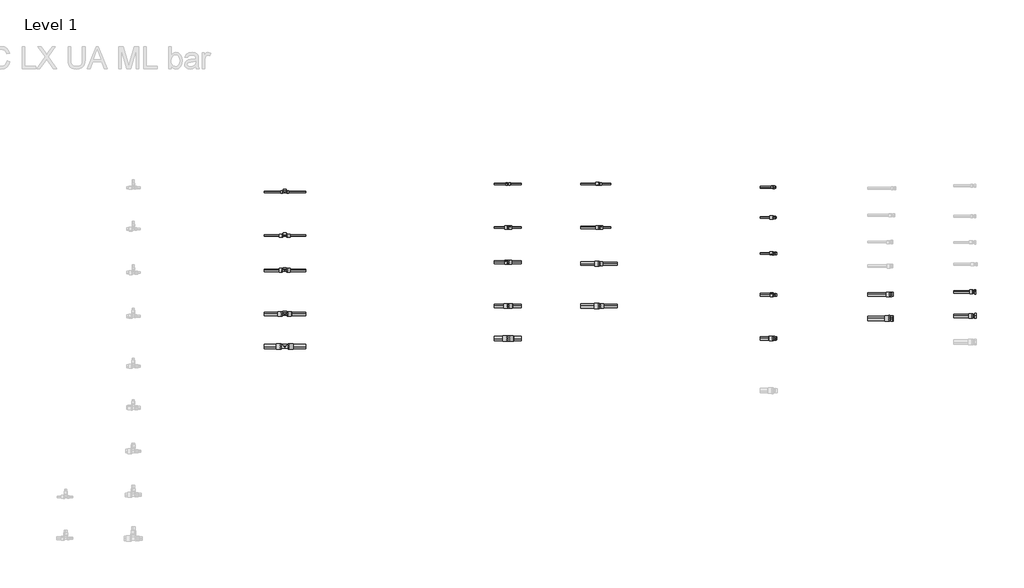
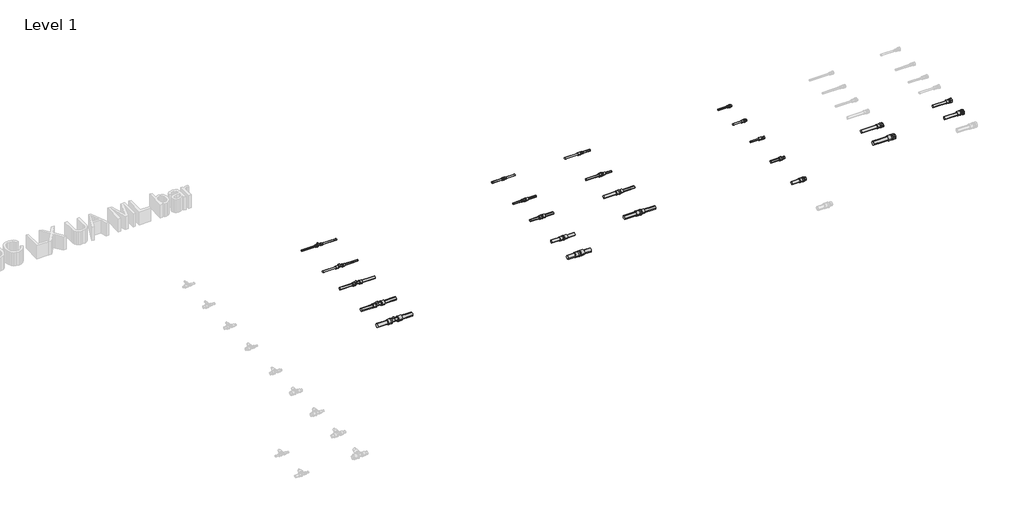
# One storey, part 23 of 78: 37 pipe segments, 23 pipe fittings.
"""IFC4 building model written with IfcOpenShell, lengths in millimetres."""

from ifc_helpers import new_model, si_unit, point, frame, frame_2d, origin, place, context, project, spatial, circle_curve, trimmed, segment, composite_curve, outline, extrude, transform, mapped, element, save
from components import pipe_fitting_bf755f27, pipe_fitting_e93012df, pipe_fitting_027be69e, pipe_fitting_14a26f43, pipe_fitting_91740978, pipe_fitting_d92d4423, pipe_fitting_47d0521d, pipe_fitting_29c4d4eb, pipe_fitting_00caae07, pipe_fitting_1d22680d, pipe_fitting_5e3c5755, pipe_fitting_f5731c1c, pipe_fitting_607ccf76, pipe_fitting_0b32e4b0, pipe_fitting_0562571e, pipe_fitting_d14a7251, pipe_fitting_38e91122, pipe_fitting_ee510fd7, pipe_fitting_a999c26e, pipe_fitting_b01d00d0, pipe_fitting_5bbd4ca1, pipe_fitting_1e296f3b, pipe_fitting_52b87474

model = new_model("IFC4")

# Units and contexts
model_context = context("Model", 3, world=origin())
ifc_project = project(units=[si_unit("LENGTHUNIT", "METRE", prefix="MILLI")], contexts=[model_context])

# Site, building, storey
site = spatial("IfcSite", under=ifc_project)
building = spatial("IfcBuilding", under=site)
storey = spatial("IfcBuildingStorey", under=building, Name="Level 1", Elevation=0.0)

# Pipe fittings
placement = place(None, origin())
pipe_fitting_shape = pipe_fitting_bf755f27(model_context)
element("IfcPipeFitting", 1, ObjectType="FASTLOC_Adapter with union nut LX : FSL A union nut UA", at=placement, inside=storey, context=model_context, shape_type="MappedRepresentation", body=[
    mapped(pipe_fitting_shape, transform((9358.4862587, -11417.8541738, 0.0), x_axis=(1.0, 0.0, 0.0), y_axis=(0.0, 1.0, 0.0), z_axis=(0.0, 0.0, 1.0))),
])
pipe_fitting_2_shape = pipe_fitting_e93012df(model_context)
element("IfcPipeFitting", 2, ObjectType="FASTLOC_Adapter_LX, with external thread : FSL A C external UA", at=placement, inside=storey, context=model_context, shape_type="MappedRepresentation", body=[
    mapped(pipe_fitting_2_shape, transform((7526.3785179, -10235.7057457, 0.0), x_axis=(1.0, 0.0, 0.0), y_axis=(0.0, 1.0, 0.0), z_axis=(0.0, 0.0, 1.0))),
])
pipe_fitting_3_shape = pipe_fitting_027be69e(model_context)
element("IfcPipeFitting", 3, ObjectType="FASTLOC_Coupling equal LX : FSL C LX UA", at=placement, inside=storey, context=model_context, shape_type="MappedRepresentation", body=[
    mapped(pipe_fitting_3_shape, transform((5088.3790161, -10205.8821283, 0.0), x_axis=(1.0, 0.0, 0.0), y_axis=(0.0, 1.0, 0.0), z_axis=(0.0, 0.0, 1.0))),
])
pipe_fitting_4_shape = pipe_fitting_14a26f43(model_context)
element("IfcPipeFitting", 4, ObjectType="FASTLOC_Coupling reduced LX : FSL C LX UA", at=placement, inside=storey, context=model_context, shape_type="MappedRepresentation", body=[
    mapped(pipe_fitting_4_shape, transform((5926.6928556, -11325.8821283, 0.0), x_axis=(1.0, 0.0, 0.0), y_axis=(0.0, 1.0, 0.0), z_axis=(0.0, 0.0, 1.0))),
])
pipe_fitting_5_shape = pipe_fitting_91740978(model_context)
element("IfcPipeFitting", 5, ObjectType="FASTLOC_T-piece internal thread LX : FSL T thread LX UA", at=placement, inside=storey, context=model_context, shape_type="MappedRepresentation", body=[
    mapped(pipe_fitting_5_shape, transform((3036.609585, -11399.8272875, 0.0), x_axis=(1.0, 0.0, 0.0), y_axis=(0.0, 1.0, 0.0), z_axis=(0.0, 0.0, 1.0))),
])
pipe_fitting_6_shape = pipe_fitting_d92d4423(model_context)
element("IfcPipeFitting", 6, ObjectType="FASTLOC_T-piece internal thread LX : FSL T thread LX UA", at=placement, inside=storey, context=model_context, shape_type="MappedRepresentation", body=[
    mapped(pipe_fitting_6_shape, transform((3036.609585, -10279.8272875, 0.0), x_axis=(1.0, 0.0, 0.0), y_axis=(0.0, 1.0, 0.0), z_axis=(0.0, 0.0, 1.0))),
])
pipe_fitting_7_shape = pipe_fitting_47d0521d(model_context)
element("IfcPipeFitting", 7, ObjectType="FASTLOC_T-piece internal thread LX : FSL T thread LX UA", at=placement, inside=storey, context=model_context, shape_type="MappedRepresentation", body=[
    mapped(pipe_fitting_7_shape, transform((3036.609585, -10679.8272875, 0.0), x_axis=(1.0, 0.0, 0.0), y_axis=(0.0, 1.0, 0.0), z_axis=(0.0, 0.0, 1.0))),
])
pipe_fitting_8_shape = pipe_fitting_29c4d4eb(model_context)
element("IfcPipeFitting", 8, ObjectType="FASTLOC_T-piece internal thread LX : FSL T thread LX UA", at=placement, inside=storey, context=model_context, shape_type="MappedRepresentation", body=[
    mapped(pipe_fitting_8_shape, transform((3036.609585, -10999.8272875, 0.0), x_axis=(1.0, 0.0, 0.0), y_axis=(0.0, 1.0, 0.0), z_axis=(0.0, 0.0, 1.0))),
])
pipe_fitting_9_shape = pipe_fitting_00caae07(model_context)
element("IfcPipeFitting", 9, ObjectType="FASTLOC_T-piece internal thread LX : FSL T thread LX UA", at=placement, inside=storey, context=model_context, shape_type="MappedRepresentation", body=[
    mapped(pipe_fitting_9_shape, transform((3036.609585, -11699.8272875, 0.0), x_axis=(1.0, 0.0, 0.0), y_axis=(0.0, 1.0, 0.0), z_axis=(0.0, 0.0, 1.0))),
])
pipe_fitting_10_shape = pipe_fitting_1d22680d(model_context)
element("IfcPipeFitting", 10, ObjectType="FASTLOC_Coupling equal LX : FSL C LX UA", at=placement, inside=storey, context=model_context, shape_type="MappedRepresentation", body=[
    mapped(pipe_fitting_10_shape, transform((5088.3790161, -10605.8821283, 0.0), x_axis=(1.0, 0.0, 0.0), y_axis=(0.0, 1.0, 0.0), z_axis=(0.0, 0.0, 1.0))),
])
pipe_fitting_11_shape = pipe_fitting_5e3c5755(model_context)
element("IfcPipeFitting", 11, ObjectType="FASTLOC_Coupling equal LX : FSL C LX UA", at=placement, inside=storey, context=model_context, shape_type="MappedRepresentation", body=[
    mapped(pipe_fitting_11_shape, transform((5088.3790161, -10925.8821283, 0.0), x_axis=(1.0, 0.0, 0.0), y_axis=(0.0, 1.0, 0.0), z_axis=(0.0, 0.0, 1.0))),
])
pipe_fitting_12_shape = pipe_fitting_f5731c1c(model_context)
element("IfcPipeFitting", 12, ObjectType="FASTLOC_Coupling equal LX : FSL C LX UA", at=placement, inside=storey, context=model_context, shape_type="MappedRepresentation", body=[
    mapped(pipe_fitting_12_shape, transform((5088.3790161, -11325.8821283, 0.0), x_axis=(1.0, 0.0, 0.0), y_axis=(0.0, 1.0, 0.0), z_axis=(0.0, 0.0, 1.0))),
])
pipe_fitting_13_shape = pipe_fitting_607ccf76(model_context)
element("IfcPipeFitting", 13, ObjectType="FASTLOC_Coupling equal LX : FSL C LX UA", at=placement, inside=storey, context=model_context, shape_type="MappedRepresentation", body=[
    mapped(pipe_fitting_13_shape, transform((5088.3790161, -11625.8821283, 0.0), x_axis=(1.0, 0.0, 0.0), y_axis=(0.0, 1.0, 0.0), z_axis=(0.0, 0.0, 1.0))),
])
pipe_fitting_14_shape = pipe_fitting_0b32e4b0(model_context)
element("IfcPipeFitting", 14, ObjectType="FASTLOC_Coupling reduced LX : FSL C LX UA", at=placement, inside=storey, context=model_context, shape_type="MappedRepresentation", body=[
    mapped(pipe_fitting_14_shape, transform((5926.6928556, -10205.8821283, 0.0), x_axis=(1.0, 0.0, 0.0), y_axis=(0.0, 1.0, 0.0), z_axis=(0.0, 0.0, 1.0))),
])
pipe_fitting_15_shape = pipe_fitting_0562571e(model_context)
element("IfcPipeFitting", 15, ObjectType="FASTLOC_Coupling reduced LX : FSL C LX UA", at=placement, inside=storey, context=model_context, shape_type="MappedRepresentation", body=[
    mapped(pipe_fitting_15_shape, transform((5926.6928556, -10605.8821283, 0.0), x_axis=(1.0, 0.0, 0.0), y_axis=(0.0, 1.0, 0.0), z_axis=(0.0, 0.0, 1.0))),
])
pipe_fitting_16_shape = pipe_fitting_d14a7251(model_context)
element("IfcPipeFitting", 16, ObjectType="FASTLOC_Coupling reduced LX : FSL C LX UA", at=placement, inside=storey, context=model_context, shape_type="MappedRepresentation", body=[
    mapped(pipe_fitting_16_shape, transform((5926.6928556, -10938.3821283, 0.0), x_axis=(1.0, 0.0, 0.0), y_axis=(0.0, 1.0, 0.0), z_axis=(0.0, 0.0, 1.0))),
])
pipe_fitting_17_shape = pipe_fitting_38e91122(model_context)
element("IfcPipeFitting", 17, ObjectType="FASTLOC_Adapter_LX, with external thread : FSL A C external UA", at=placement, inside=storey, context=model_context, shape_type="MappedRepresentation", body=[
    mapped(pipe_fitting_17_shape, transform((7526.8953131, -10514.2068389, 0.0), x_axis=(1.0, 0.0, 0.0), y_axis=(0.0, 1.0, 0.0), z_axis=(0.0, 0.0, 1.0))),
])
pipe_fitting_18_shape = pipe_fitting_ee510fd7(model_context)
element("IfcPipeFitting", 18, ObjectType="FASTLOC_Adapter_LX, with external thread : FSL A C external UA", at=placement, inside=storey, context=model_context, shape_type="MappedRepresentation", body=[
    mapped(pipe_fitting_18_shape, transform((7526.8953131, -10844.2068389, 0.0), x_axis=(1.0, 0.0, 0.0), y_axis=(0.0, 1.0, 0.0), z_axis=(0.0, 0.0, 1.0))),
])
pipe_fitting_19_shape = pipe_fitting_a999c26e(model_context)
element("IfcPipeFitting", 19, ObjectType="FASTLOC_Adapter_LX, with external thread : FSL A C external UA", at=placement, inside=storey, context=model_context, shape_type="MappedRepresentation", body=[
    mapped(pipe_fitting_19_shape, transform((7526.8953131, -11224.2068389, 0.0), x_axis=(1.0, 0.0, 0.0), y_axis=(0.0, 1.0, 0.0), z_axis=(0.0, 0.0, 1.0))),
])
pipe_fitting_20_shape = pipe_fitting_b01d00d0(model_context)
element("IfcPipeFitting", 20, ObjectType="FASTLOC_Adapter_LX, with external thread : FSL A C external UA", at=placement, inside=storey, context=model_context, shape_type="MappedRepresentation", body=[
    mapped(pipe_fitting_20_shape, transform((7526.8953131, -11624.2068389, 0.0), x_axis=(1.0, 0.0, 0.0), y_axis=(0.0, 1.0, 0.0), z_axis=(0.0, 0.0, 1.0))),
])
pipe_fitting_21_shape = pipe_fitting_5bbd4ca1(model_context)
element("IfcPipeFitting", 21, ObjectType="FASTLOC_Adapter with union nut LX : FSL A union nut UA", at=placement, inside=storey, context=model_context, shape_type="MappedRepresentation", body=[
    mapped(pipe_fitting_21_shape, transform((9358.4862587, -11197.8541738, 0.0), x_axis=(1.0, 0.0, 0.0), y_axis=(0.0, 1.0, 0.0), z_axis=(0.0, 0.0, 1.0))),
])
pipe_fitting_22_shape = pipe_fitting_1e296f3b(model_context)
element("IfcPipeFitting", 22, ObjectType="FASTLOC_Adapter_LX, with internal thread : FSL A internal UA", at=placement, inside=storey, context=model_context, shape_type="MappedRepresentation", body=[
    mapped(pipe_fitting_22_shape, transform((8602.7717432, -11220.2569989, 0.0), x_axis=(1.0, 0.0, 0.0), y_axis=(0.0, 1.0, 0.0), z_axis=(0.0, 0.0, 1.0))),
])
pipe_fitting_23_shape = pipe_fitting_52b87474(model_context)
element("IfcPipeFitting", 23, ObjectType="FASTLOC_Adapter_LX, with internal thread : FSL A internal UA", at=placement, inside=storey, context=model_context, shape_type="MappedRepresentation", body=[
    mapped(pipe_fitting_23_shape, transform((8602.7717432, -11440.2569989, 0.0), x_axis=(1.0, 0.0, 0.0), y_axis=(0.0, 1.0, 0.0), z_axis=(0.0, 0.0, 1.0))),
])

# Pipe segments
element("IfcPipeSegment", 24, ObjectType="FASTLOC LX ML UA bar", at=placement, inside=storey, context=model_context, shape_type="SweptSolid", body=[
    extrude(outline(composite_curve([segment(trimmed(circle_curve(frame_2d((-10279.8272875, 0.0)), 8.0), [point((-10287.8272875, 0.0))], [point((-10279.8272875, 8.0))], False, "CARTESIAN"), True, "CONTINUOUS"), segment(trimmed(circle_curve(frame_2d((-10279.8272875, 0.0)), 8.0), [point((-10279.8272875, 8.0))], [point((-10271.8272875, 0.0))], False, "CARTESIAN"), True, "CONTINUOUS"), segment(trimmed(circle_curve(frame_2d((-10279.8272875, 0.0)), 8.0), [point((-10271.8272875, 0.0))], [point((-10279.8272875, -8.0))], False, "CARTESIAN"), True, "CONTINUOUS"), segment(trimmed(circle_curve(frame_2d((-10279.8272875, 0.0)), 8.0), [point((-10279.8272875, -8.0))], [point((-10287.8272875, 0.0))], False, "CARTESIAN"), True, "CONTINUOUS")], self_intersect=False)), frame((3058.609585, 0.0, 0.0), z_axis=(1.0, 0.0, 0.0), x_axis=(0.0, 1.0, 0.0)), (0.0, 0.0, 1.0), 170.0),
])
element("IfcPipeSegment", 25, ObjectType="FASTLOC LX ML UA bar", at=placement, inside=storey, context=model_context, shape_type="SweptSolid", body=[
    extrude(outline(composite_curve([segment(trimmed(circle_curve(frame_2d((-10279.8272875, 0.0)), 8.0), [point((-10271.8272875, 0.0))], [point((-10279.8272875, -8.0))], False, "CARTESIAN"), True, "CONTINUOUS"), segment(trimmed(circle_curve(frame_2d((-10279.8272875, 0.0)), 8.0), [point((-10279.8272875, -8.0))], [point((-10287.8272875, 0.0))], False, "CARTESIAN"), True, "CONTINUOUS"), segment(trimmed(circle_curve(frame_2d((-10279.8272875, 0.0)), 8.0), [point((-10287.8272875, 0.0))], [point((-10279.8272875, 8.0))], False, "CARTESIAN"), True, "CONTINUOUS"), segment(trimmed(circle_curve(frame_2d((-10279.8272875, 0.0)), 8.0), [point((-10279.8272875, 8.0))], [point((-10271.8272875, 0.0))], False, "CARTESIAN"), True, "CONTINUOUS")], self_intersect=False)), frame((2849.609585, 0.0, 0.0), z_axis=(1.0, 0.0, 0.0), x_axis=(0.0, 1.0, 0.0)), (0.0, 0.0, 1.0), 165.0),
])
element("IfcPipeSegment", 26, ObjectType="FASTLOC LX ML UA bar", at=placement, inside=storey, context=model_context, shape_type="SweptSolid", body=[
    extrude(outline(composite_curve([segment(trimmed(circle_curve(frame_2d((-10679.8272875, 0.0)), 8.0), [point((-10687.8272875, 0.0))], [point((-10679.8272875, 8.0))], False, "CARTESIAN"), True, "CONTINUOUS"), segment(trimmed(circle_curve(frame_2d((-10679.8272875, 0.0)), 8.0), [point((-10679.8272875, 8.0))], [point((-10671.8272875, 0.0))], False, "CARTESIAN"), True, "CONTINUOUS"), segment(trimmed(circle_curve(frame_2d((-10679.8272875, 0.0)), 8.0), [point((-10671.8272875, 0.0))], [point((-10679.8272875, -8.0))], False, "CARTESIAN"), True, "CONTINUOUS"), segment(trimmed(circle_curve(frame_2d((-10679.8272875, 0.0)), 8.0), [point((-10679.8272875, -8.0))], [point((-10687.8272875, 0.0))], False, "CARTESIAN"), True, "CONTINUOUS")], self_intersect=False)), frame((3059.109585, 0.0, 0.0), z_axis=(1.0, 0.0, 0.0), x_axis=(0.0, 1.0, 0.0)), (0.0, 0.0, 1.0), 169.5),
])
element("IfcPipeSegment", 27, ObjectType="FASTLOC LX ML UA bar", at=placement, inside=storey, context=model_context, shape_type="SweptSolid", body=[
    extrude(outline(composite_curve([segment(trimmed(circle_curve(frame_2d((-10679.8272875, 0.0)), 8.0), [point((-10671.8272875, 0.0))], [point((-10679.8272875, -8.0))], False, "CARTESIAN"), True, "CONTINUOUS"), segment(trimmed(circle_curve(frame_2d((-10679.8272875, 0.0)), 8.0), [point((-10679.8272875, -8.0))], [point((-10687.8272875, 0.0))], False, "CARTESIAN"), True, "CONTINUOUS"), segment(trimmed(circle_curve(frame_2d((-10679.8272875, 0.0)), 8.0), [point((-10687.8272875, 0.0))], [point((-10679.8272875, 8.0))], False, "CARTESIAN"), True, "CONTINUOUS"), segment(trimmed(circle_curve(frame_2d((-10679.8272875, 0.0)), 8.0), [point((-10679.8272875, 8.0))], [point((-10671.8272875, 0.0))], False, "CARTESIAN"), True, "CONTINUOUS")], self_intersect=False)), frame((2849.609585, 0.0, 0.0), z_axis=(1.0, 0.0, 0.0), x_axis=(0.0, 1.0, 0.0)), (0.0, 0.0, 1.0), 164.5),
])
element("IfcPipeSegment", 28, ObjectType="FASTLOC LX ML UA bar", at=placement, inside=storey, context=model_context, shape_type="SweptSolid", body=[
    extrude(outline(composite_curve([segment(trimmed(circle_curve(frame_2d((-10999.8272875, 0.0)), 12.5), [point((-11012.3272875, 0.0))], [point((-10999.8272875, 12.5))], False, "CARTESIAN"), True, "CONTINUOUS"), segment(trimmed(circle_curve(frame_2d((-10999.8272875, 0.0)), 12.5), [point((-10999.8272875, 12.5))], [point((-10987.3272875, 0.0))], False, "CARTESIAN"), True, "CONTINUOUS"), segment(trimmed(circle_curve(frame_2d((-10999.8272875, 0.0)), 12.5), [point((-10987.3272875, 0.0))], [point((-10999.8272875, -12.5))], False, "CARTESIAN"), True, "CONTINUOUS"), segment(trimmed(circle_curve(frame_2d((-10999.8272875, 0.0)), 12.5), [point((-10999.8272875, -12.5))], [point((-11012.3272875, 0.0))], False, "CARTESIAN"), True, "CONTINUOUS")], self_intersect=False)), frame((3063.309585, 0.0, 0.0), z_axis=(1.0, 0.0, 0.0), x_axis=(0.0, 1.0, 0.0)), (0.0, 0.0, 1.0), 165.3),
])
element("IfcPipeSegment", 29, ObjectType="FASTLOC LX ML UA bar", at=placement, inside=storey, context=model_context, shape_type="SweptSolid", body=[
    extrude(outline(composite_curve([segment(trimmed(circle_curve(frame_2d((-10999.8272875, 0.0)), 12.5), [point((-10987.3272875, 0.0))], [point((-10999.8272875, -12.5))], False, "CARTESIAN"), True, "CONTINUOUS"), segment(trimmed(circle_curve(frame_2d((-10999.8272875, 0.0)), 12.5), [point((-10999.8272875, -12.5))], [point((-11012.3272875, 0.0))], False, "CARTESIAN"), True, "CONTINUOUS"), segment(trimmed(circle_curve(frame_2d((-10999.8272875, 0.0)), 12.5), [point((-11012.3272875, 0.0))], [point((-10999.8272875, 12.5))], False, "CARTESIAN"), True, "CONTINUOUS"), segment(trimmed(circle_curve(frame_2d((-10999.8272875, 0.0)), 12.5), [point((-10999.8272875, 12.5))], [point((-10987.3272875, 0.0))], False, "CARTESIAN"), True, "CONTINUOUS")], self_intersect=False)), frame((2849.609585, 0.0, 0.0), z_axis=(1.0, 0.0, 0.0), x_axis=(0.0, 1.0, 0.0)), (0.0, 0.0, 1.0), 160.3),
])
element("IfcPipeSegment", 30, ObjectType="FASTLOC LX ML UA bar", at=placement, inside=storey, context=model_context, shape_type="SweptSolid", body=[
    extrude(outline(composite_curve([segment(trimmed(circle_curve(frame_2d((-11399.8272875, 0.0)), 16.0), [point((-11415.8272875, 0.0))], [point((-11399.8272875, 16.0))], False, "CARTESIAN"), True, "CONTINUOUS"), segment(trimmed(circle_curve(frame_2d((-11399.8272875, 0.0)), 16.0), [point((-11399.8272875, 16.0))], [point((-11383.8272875, 0.0))], False, "CARTESIAN"), True, "CONTINUOUS"), segment(trimmed(circle_curve(frame_2d((-11399.8272875, 0.0)), 16.0), [point((-11383.8272875, 0.0))], [point((-11399.8272875, -16.0))], False, "CARTESIAN"), True, "CONTINUOUS"), segment(trimmed(circle_curve(frame_2d((-11399.8272875, 0.0)), 16.0), [point((-11399.8272875, -16.0))], [point((-11415.8272875, 0.0))], False, "CARTESIAN"), True, "CONTINUOUS")], self_intersect=False)), frame((3069.609585, 0.0, 0.0), z_axis=(1.0, 0.0, 0.0), x_axis=(0.0, 1.0, 0.0)), (0.0, 0.0, 1.0), 159.0),
])
element("IfcPipeSegment", 31, ObjectType="FASTLOC LX ML UA bar", at=placement, inside=storey, context=model_context, shape_type="SweptSolid", body=[
    extrude(outline(composite_curve([segment(trimmed(circle_curve(frame_2d((-11399.8272875, 0.0)), 16.0), [point((-11383.8272875, 0.0))], [point((-11399.8272875, -16.0))], False, "CARTESIAN"), True, "CONTINUOUS"), segment(trimmed(circle_curve(frame_2d((-11399.8272875, 0.0)), 16.0), [point((-11399.8272875, -16.0))], [point((-11415.8272875, 0.0))], False, "CARTESIAN"), True, "CONTINUOUS"), segment(trimmed(circle_curve(frame_2d((-11399.8272875, 0.0)), 16.0), [point((-11415.8272875, 0.0))], [point((-11399.8272875, 16.0))], False, "CARTESIAN"), True, "CONTINUOUS"), segment(trimmed(circle_curve(frame_2d((-11399.8272875, 0.0)), 16.0), [point((-11399.8272875, 16.0))], [point((-11383.8272875, 0.0))], False, "CARTESIAN"), True, "CONTINUOUS")], self_intersect=False)), frame((2849.609585, 0.0, 0.0), z_axis=(1.0, 0.0, 0.0), x_axis=(0.0, 1.0, 0.0)), (0.0, 0.0, 1.0), 154.0),
])
element("IfcPipeSegment", 32, ObjectType="FASTLOC LX ML UA bar", at=placement, inside=storey, context=model_context, shape_type="SweptSolid", body=[
    extrude(outline(composite_curve([segment(trimmed(circle_curve(frame_2d((-11699.8272875, 0.0)), 20.0), [point((-11719.8272875, 0.0))], [point((-11699.8272875, 20.0))], False, "CARTESIAN"), True, "CONTINUOUS"), segment(trimmed(circle_curve(frame_2d((-11699.8272875, 0.0)), 20.0), [point((-11699.8272875, 20.0))], [point((-11679.8272875, 0.0))], False, "CARTESIAN"), True, "CONTINUOUS"), segment(trimmed(circle_curve(frame_2d((-11699.8272875, 0.0)), 20.0), [point((-11679.8272875, 0.0))], [point((-11699.8272875, -20.0))], False, "CARTESIAN"), True, "CONTINUOUS"), segment(trimmed(circle_curve(frame_2d((-11699.8272875, 0.0)), 20.0), [point((-11699.8272875, -20.0))], [point((-11719.8272875, 0.0))], False, "CARTESIAN"), True, "CONTINUOUS")], self_intersect=False)), frame((3077.909585, 0.0, 0.0), z_axis=(1.0, 0.0, 0.0), x_axis=(0.0, 1.0, 0.0)), (0.0, 0.0, 1.0), 150.7),
])
element("IfcPipeSegment", 33, ObjectType="FASTLOC LX ML UA bar", at=placement, inside=storey, context=model_context, shape_type="SweptSolid", body=[
    extrude(outline(composite_curve([segment(trimmed(circle_curve(frame_2d((-11699.8272875, 0.0)), 20.0), [point((-11679.8272875, 0.0))], [point((-11699.8272875, -20.0))], False, "CARTESIAN"), True, "CONTINUOUS"), segment(trimmed(circle_curve(frame_2d((-11699.8272875, 0.0)), 20.0), [point((-11699.8272875, -20.0))], [point((-11719.8272875, 0.0))], False, "CARTESIAN"), True, "CONTINUOUS"), segment(trimmed(circle_curve(frame_2d((-11699.8272875, 0.0)), 20.0), [point((-11719.8272875, 0.0))], [point((-11699.8272875, 20.0))], False, "CARTESIAN"), True, "CONTINUOUS"), segment(trimmed(circle_curve(frame_2d((-11699.8272875, 0.0)), 20.0), [point((-11699.8272875, 20.0))], [point((-11679.8272875, 0.0))], False, "CARTESIAN"), True, "CONTINUOUS")], self_intersect=False)), frame((2849.609585, 0.0, 0.0), z_axis=(1.0, 0.0, 0.0), x_axis=(0.0, 1.0, 0.0)), (0.0, 0.0, 1.0), 145.7),
])
element("IfcPipeSegment", 34, ObjectType="FASTLOC LX ML UA bar", at=placement, inside=storey, context=model_context, shape_type="SweptSolid", body=[
    extrude(outline(composite_curve([segment(trimmed(circle_curve(frame_2d((-10205.8821283, 0.0)), 8.0), [point((-10213.8821283, 0.0))], [point((-10205.8821283, 8.0))], False, "CARTESIAN"), True, "CONTINUOUS"), segment(trimmed(circle_curve(frame_2d((-10205.8821283, 0.0)), 8.0), [point((-10205.8821283, 8.0))], [point((-10197.8821283, 0.0))], False, "CARTESIAN"), True, "CONTINUOUS"), segment(trimmed(circle_curve(frame_2d((-10205.8821283, 0.0)), 8.0), [point((-10197.8821283, 0.0))], [point((-10205.8821283, -8.0))], False, "CARTESIAN"), True, "CONTINUOUS"), segment(trimmed(circle_curve(frame_2d((-10205.8821283, 0.0)), 8.0), [point((-10205.8821283, -8.0))], [point((-10213.8821283, 0.0))], False, "CARTESIAN"), True, "CONTINUOUS")], self_intersect=False)), frame((5095.5790161, 0.0, 0.0), z_axis=(1.0, 0.0, 0.0), x_axis=(0.0, 1.0, 0.0)), (0.0, 0.0, 1.0), 115.0),
])
element("IfcPipeSegment", 35, ObjectType="FASTLOC LX ML UA bar", at=placement, inside=storey, context=model_context, shape_type="SweptSolid", body=[
    extrude(outline(composite_curve([segment(trimmed(circle_curve(frame_2d((-10205.8821283, 0.0)), 8.0), [point((-10197.8821283, 0.0))], [point((-10205.8821283, -8.0))], False, "CARTESIAN"), True, "CONTINUOUS"), segment(trimmed(circle_curve(frame_2d((-10205.8821283, 0.0)), 8.0), [point((-10205.8821283, -8.0))], [point((-10213.8821283, 0.0))], False, "CARTESIAN"), True, "CONTINUOUS"), segment(trimmed(circle_curve(frame_2d((-10205.8821283, 0.0)), 8.0), [point((-10213.8821283, 0.0))], [point((-10205.8821283, 8.0))], False, "CARTESIAN"), True, "CONTINUOUS"), segment(trimmed(circle_curve(frame_2d((-10205.8821283, 0.0)), 8.0), [point((-10205.8821283, 8.0))], [point((-10197.8821283, 0.0))], False, "CARTESIAN"), True, "CONTINUOUS")], self_intersect=False)), frame((4961.1790161, 0.0, 0.0), z_axis=(1.0, 0.0, 0.0), x_axis=(0.0, 1.0, 0.0)), (0.0, 0.0, 1.0), 120.0),
])
element("IfcPipeSegment", 36, ObjectType="FASTLOC LX ML UA bar", at=placement, inside=storey, context=model_context, shape_type="SweptSolid", body=[
    extrude(outline(composite_curve([segment(trimmed(circle_curve(frame_2d((-10605.8821283, 0.0)), 8.0), [point((-10613.8821283, 0.0))], [point((-10605.8821283, 8.0))], False, "CARTESIAN"), True, "CONTINUOUS"), segment(trimmed(circle_curve(frame_2d((-10605.8821283, 0.0)), 8.0), [point((-10605.8821283, 8.0))], [point((-10597.8821283, 0.0))], False, "CARTESIAN"), True, "CONTINUOUS"), segment(trimmed(circle_curve(frame_2d((-10605.8821283, 0.0)), 8.0), [point((-10597.8821283, 0.0))], [point((-10605.8821283, -8.0))], False, "CARTESIAN"), True, "CONTINUOUS"), segment(trimmed(circle_curve(frame_2d((-10605.8821283, 0.0)), 8.0), [point((-10605.8821283, -8.0))], [point((-10613.8821283, 0.0))], False, "CARTESIAN"), True, "CONTINUOUS")], self_intersect=False)), frame((5095.7790161, 0.0, 0.0), z_axis=(1.0, 0.0, 0.0), x_axis=(0.0, 1.0, 0.0)), (0.0, 0.0, 1.0), 114.8),
])
element("IfcPipeSegment", 37, ObjectType="FASTLOC LX ML UA bar", at=placement, inside=storey, context=model_context, shape_type="SweptSolid", body=[
    extrude(outline(composite_curve([segment(trimmed(circle_curve(frame_2d((-10605.8821283, 0.0)), 8.0), [point((-10597.8821283, 0.0))], [point((-10605.8821283, -8.0))], False, "CARTESIAN"), True, "CONTINUOUS"), segment(trimmed(circle_curve(frame_2d((-10605.8821283, 0.0)), 8.0), [point((-10605.8821283, -8.0))], [point((-10613.8821283, 0.0))], False, "CARTESIAN"), True, "CONTINUOUS"), segment(trimmed(circle_curve(frame_2d((-10605.8821283, 0.0)), 8.0), [point((-10613.8821283, 0.0))], [point((-10605.8821283, 8.0))], False, "CARTESIAN"), True, "CONTINUOUS"), segment(trimmed(circle_curve(frame_2d((-10605.8821283, 0.0)), 8.0), [point((-10605.8821283, 8.0))], [point((-10597.8821283, 0.0))], False, "CARTESIAN"), True, "CONTINUOUS")], self_intersect=False)), frame((4961.1790161, 0.0, 0.0), z_axis=(1.0, 0.0, 0.0), x_axis=(0.0, 1.0, 0.0)), (0.0, 0.0, 1.0), 119.8),
])
element("IfcPipeSegment", 38, ObjectType="FASTLOC LX ML UA bar", at=placement, inside=storey, context=model_context, shape_type="SweptSolid", body=[
    extrude(outline(composite_curve([segment(trimmed(circle_curve(frame_2d((-10925.8821283, 0.0)), 12.5), [point((-10938.3821283, 0.0))], [point((-10925.8821283, 12.5))], False, "CARTESIAN"), True, "CONTINUOUS"), segment(trimmed(circle_curve(frame_2d((-10925.8821283, 0.0)), 12.5), [point((-10925.8821283, 12.5))], [point((-10913.3821283, 0.0))], False, "CARTESIAN"), True, "CONTINUOUS"), segment(trimmed(circle_curve(frame_2d((-10925.8821283, 0.0)), 12.5), [point((-10913.3821283, 0.0))], [point((-10925.8821283, -12.5))], False, "CARTESIAN"), True, "CONTINUOUS"), segment(trimmed(circle_curve(frame_2d((-10925.8821283, 0.0)), 12.5), [point((-10925.8821283, -12.5))], [point((-10938.3821283, 0.0))], False, "CARTESIAN"), True, "CONTINUOUS")], self_intersect=False)), frame((5096.3790161, 0.0, 0.0), z_axis=(1.0, 0.0, 0.0), x_axis=(0.0, 1.0, 0.0)), (0.0, 0.0, 1.0), 114.2),
])
element("IfcPipeSegment", 39, ObjectType="FASTLOC LX ML UA bar", at=placement, inside=storey, context=model_context, shape_type="SweptSolid", body=[
    extrude(outline(composite_curve([segment(trimmed(circle_curve(frame_2d((-10925.8821283, 0.0)), 12.5), [point((-10913.3821283, 0.0))], [point((-10925.8821283, -12.5))], False, "CARTESIAN"), True, "CONTINUOUS"), segment(trimmed(circle_curve(frame_2d((-10925.8821283, 0.0)), 12.5), [point((-10925.8821283, -12.5))], [point((-10938.3821283, 0.0))], False, "CARTESIAN"), True, "CONTINUOUS"), segment(trimmed(circle_curve(frame_2d((-10925.8821283, 0.0)), 12.5), [point((-10938.3821283, 0.0))], [point((-10925.8821283, 12.5))], False, "CARTESIAN"), True, "CONTINUOUS"), segment(trimmed(circle_curve(frame_2d((-10925.8821283, 0.0)), 12.5), [point((-10925.8821283, 12.5))], [point((-10913.3821283, 0.0))], False, "CARTESIAN"), True, "CONTINUOUS")], self_intersect=False)), frame((4961.1790161, 0.0, 0.0), z_axis=(1.0, 0.0, 0.0), x_axis=(0.0, 1.0, 0.0)), (0.0, 0.0, 1.0), 119.2),
])
element("IfcPipeSegment", 40, ObjectType="FASTLOC LX ML UA bar", at=placement, inside=storey, context=model_context, shape_type="SweptSolid", body=[
    extrude(outline(composite_curve([segment(trimmed(circle_curve(frame_2d((-11325.8821283, 0.0)), 16.0), [point((-11341.8821283, 0.0))], [point((-11325.8821283, 16.0))], False, "CARTESIAN"), True, "CONTINUOUS"), segment(trimmed(circle_curve(frame_2d((-11325.8821283, 0.0)), 16.0), [point((-11325.8821283, 16.0))], [point((-11309.8821283, 0.0))], False, "CARTESIAN"), True, "CONTINUOUS"), segment(trimmed(circle_curve(frame_2d((-11325.8821283, 0.0)), 16.0), [point((-11309.8821283, 0.0))], [point((-11325.8821283, -16.0))], False, "CARTESIAN"), True, "CONTINUOUS"), segment(trimmed(circle_curve(frame_2d((-11325.8821283, 0.0)), 16.0), [point((-11325.8821283, -16.0))], [point((-11341.8821283, 0.0))], False, "CARTESIAN"), True, "CONTINUOUS")], self_intersect=False)), frame((5098.3790161, 0.0, 0.0), z_axis=(1.0, 0.0, 0.0), x_axis=(0.0, 1.0, 0.0)), (0.0, 0.0, 1.0), 112.2),
])
element("IfcPipeSegment", 41, ObjectType="FASTLOC LX ML UA bar", at=placement, inside=storey, context=model_context, shape_type="SweptSolid", body=[
    extrude(outline(composite_curve([segment(trimmed(circle_curve(frame_2d((-11325.8821283, 0.0)), 16.0), [point((-11309.8821283, 0.0))], [point((-11325.8821283, -16.0))], False, "CARTESIAN"), True, "CONTINUOUS"), segment(trimmed(circle_curve(frame_2d((-11325.8821283, 0.0)), 16.0), [point((-11325.8821283, -16.0))], [point((-11341.8821283, 0.0))], False, "CARTESIAN"), True, "CONTINUOUS"), segment(trimmed(circle_curve(frame_2d((-11325.8821283, 0.0)), 16.0), [point((-11341.8821283, 0.0))], [point((-11325.8821283, 16.0))], False, "CARTESIAN"), True, "CONTINUOUS"), segment(trimmed(circle_curve(frame_2d((-11325.8821283, 0.0)), 16.0), [point((-11325.8821283, 16.0))], [point((-11309.8821283, 0.0))], False, "CARTESIAN"), True, "CONTINUOUS")], self_intersect=False)), frame((4961.1790161, 0.0, 0.0), z_axis=(1.0, 0.0, 0.0), x_axis=(0.0, 1.0, 0.0)), (0.0, 0.0, 1.0), 117.2),
])
element("IfcPipeSegment", 42, ObjectType="FASTLOC LX ML UA bar", at=placement, inside=storey, context=model_context, shape_type="SweptSolid", body=[
    extrude(outline(composite_curve([segment(trimmed(circle_curve(frame_2d((-11625.8821283, 0.0)), 20.0), [point((-11645.8821283, 0.0))], [point((-11625.8821283, 20.0))], False, "CARTESIAN"), True, "CONTINUOUS"), segment(trimmed(circle_curve(frame_2d((-11625.8821283, 0.0)), 20.0), [point((-11625.8821283, 20.0))], [point((-11605.8821283, 0.0))], False, "CARTESIAN"), True, "CONTINUOUS"), segment(trimmed(circle_curve(frame_2d((-11625.8821283, 0.0)), 20.0), [point((-11605.8821283, 0.0))], [point((-11625.8821283, -20.0))], False, "CARTESIAN"), True, "CONTINUOUS"), segment(trimmed(circle_curve(frame_2d((-11625.8821283, 0.0)), 20.0), [point((-11625.8821283, -20.0))], [point((-11645.8821283, 0.0))], False, "CARTESIAN"), True, "CONTINUOUS")], self_intersect=False)), frame((5101.0790161, 0.0, 0.0), z_axis=(1.0, 0.0, 0.0), x_axis=(0.0, 1.0, 0.0)), (0.0, 0.0, 1.0), 109.5),
])
element("IfcPipeSegment", 43, ObjectType="FASTLOC LX ML UA bar", at=placement, inside=storey, context=model_context, shape_type="SweptSolid", body=[
    extrude(outline(composite_curve([segment(trimmed(circle_curve(frame_2d((-11625.8821283, 0.0)), 20.0), [point((-11605.8821283, 0.0))], [point((-11625.8821283, -20.0))], False, "CARTESIAN"), True, "CONTINUOUS"), segment(trimmed(circle_curve(frame_2d((-11625.8821283, 0.0)), 20.0), [point((-11625.8821283, -20.0))], [point((-11645.8821283, 0.0))], False, "CARTESIAN"), True, "CONTINUOUS"), segment(trimmed(circle_curve(frame_2d((-11625.8821283, 0.0)), 20.0), [point((-11645.8821283, 0.0))], [point((-11625.8821283, 20.0))], False, "CARTESIAN"), True, "CONTINUOUS"), segment(trimmed(circle_curve(frame_2d((-11625.8821283, 0.0)), 20.0), [point((-11625.8821283, 20.0))], [point((-11605.8821283, 0.0))], False, "CARTESIAN"), True, "CONTINUOUS")], self_intersect=False)), frame((4961.1790161, 0.0, 0.0), z_axis=(1.0, 0.0, 0.0), x_axis=(0.0, 1.0, 0.0)), (0.0, 0.0, 1.0), 114.5),
])
element("IfcPipeSegment", 44, ObjectType="FASTLOC LX ML UA bar", at=placement, inside=storey, context=model_context, shape_type="SweptSolid", body=[
    extrude(outline(composite_curve([segment(trimmed(circle_curve(frame_2d((-10205.8821283, 0.0)), 8.0), [point((-10213.8821283, 0.0))], [point((-10205.8821283, 8.0))], False, "CARTESIAN"), True, "CONTINUOUS"), segment(trimmed(circle_curve(frame_2d((-10205.8821283, 0.0)), 8.0), [point((-10205.8821283, 8.0))], [point((-10197.8821283, 0.0))], False, "CARTESIAN"), True, "CONTINUOUS"), segment(trimmed(circle_curve(frame_2d((-10205.8821283, 0.0)), 8.0), [point((-10197.8821283, 0.0))], [point((-10205.8821283, -8.0))], False, "CARTESIAN"), True, "CONTINUOUS"), segment(trimmed(circle_curve(frame_2d((-10205.8821283, 0.0)), 8.0), [point((-10205.8821283, -8.0))], [point((-10213.8821283, 0.0))], False, "CARTESIAN"), True, "CONTINUOUS")], self_intersect=False)), frame((5932.9928556, 0.0, 0.0), z_axis=(1.0, 0.0, 0.0), x_axis=(0.0, 1.0, 0.0)), (0.0, 0.0, 1.0), 95.0),
])
element("IfcPipeSegment", 45, ObjectType="FASTLOC LX ML UA bar", at=placement, inside=storey, context=model_context, shape_type="SweptSolid", body=[
    extrude(outline(composite_curve([segment(trimmed(circle_curve(frame_2d((-10205.8821283, 0.0)), 8.0), [point((-10197.8821283, 0.0))], [point((-10205.8821283, -8.0))], False, "CARTESIAN"), True, "CONTINUOUS"), segment(trimmed(circle_curve(frame_2d((-10205.8821283, 0.0)), 8.0), [point((-10205.8821283, -8.0))], [point((-10213.8821283, 0.0))], False, "CARTESIAN"), True, "CONTINUOUS"), segment(trimmed(circle_curve(frame_2d((-10205.8821283, 0.0)), 8.0), [point((-10213.8821283, 0.0))], [point((-10205.8821283, 8.0))], False, "CARTESIAN"), True, "CONTINUOUS"), segment(trimmed(circle_curve(frame_2d((-10205.8821283, 0.0)), 8.0), [point((-10205.8821283, 8.0))], [point((-10197.8821283, 0.0))], False, "CARTESIAN"), True, "CONTINUOUS")], self_intersect=False)), frame((5752.9928556, 0.0, 0.0), z_axis=(1.0, 0.0, 0.0), x_axis=(0.0, 1.0, 0.0)), (0.0, 0.0, 1.0), 165.0),
])
element("IfcPipeSegment", 46, ObjectType="FASTLOC LX ML UA bar", at=placement, inside=storey, context=model_context, shape_type="SweptSolid", body=[
    extrude(outline(composite_curve([segment(trimmed(circle_curve(frame_2d((-10605.8821283, 0.0)), 12.5), [point((-10593.3821283, 0.0))], [point((-10605.8821283, -12.5))], False, "CARTESIAN"), True, "CONTINUOUS"), segment(trimmed(circle_curve(frame_2d((-10605.8821283, 0.0)), 12.5), [point((-10605.8821283, -12.5))], [point((-10618.3821283, 0.0))], False, "CARTESIAN"), True, "CONTINUOUS"), segment(trimmed(circle_curve(frame_2d((-10605.8821283, 0.0)), 12.5), [point((-10618.3821283, 0.0))], [point((-10605.8821283, 12.5))], False, "CARTESIAN"), True, "CONTINUOUS"), segment(trimmed(circle_curve(frame_2d((-10605.8821283, 0.0)), 12.5), [point((-10605.8821283, 12.5))], [point((-10593.3821283, 0.0))], False, "CARTESIAN"), True, "CONTINUOUS")], self_intersect=False)), frame((5752.9928556, 0.0, 0.0), z_axis=(1.0, 0.0, 0.0), x_axis=(0.0, 1.0, 0.0)), (0.0, 0.0, 1.0), 163.9),
])
element("IfcPipeSegment", 47, ObjectType="FASTLOC LX ML UA bar", at=placement, inside=storey, context=model_context, shape_type="SweptSolid", body=[
    extrude(outline(composite_curve([segment(trimmed(circle_curve(frame_2d((-10605.8821283, 0.0)), 8.0), [point((-10613.8821283, 0.0))], [point((-10605.8821283, 8.0))], False, "CARTESIAN"), True, "CONTINUOUS"), segment(trimmed(circle_curve(frame_2d((-10605.8821283, 0.0)), 8.0), [point((-10605.8821283, 8.0))], [point((-10597.8821283, 0.0))], False, "CARTESIAN"), True, "CONTINUOUS"), segment(trimmed(circle_curve(frame_2d((-10605.8821283, 0.0)), 8.0), [point((-10597.8821283, 0.0))], [point((-10605.8821283, -8.0))], False, "CARTESIAN"), True, "CONTINUOUS"), segment(trimmed(circle_curve(frame_2d((-10605.8821283, 0.0)), 8.0), [point((-10605.8821283, -8.0))], [point((-10613.8821283, 0.0))], False, "CARTESIAN"), True, "CONTINUOUS")], self_intersect=False)), frame((5932.3928556, 0.0, 0.0), z_axis=(1.0, 0.0, 0.0), x_axis=(0.0, 1.0, 0.0)), (0.0, 0.0, 1.0), 95.6),
])
element("IfcPipeSegment", 48, ObjectType="FASTLOC LX ML UA bar", at=placement, inside=storey, context=model_context, shape_type="SweptSolid", body=[
    extrude(outline(composite_curve([segment(trimmed(circle_curve(frame_2d((-11325.8821283, 0.0)), 20.0), [point((-11305.8821283, 0.0))], [point((-11325.8821283, -20.0))], False, "CARTESIAN"), True, "CONTINUOUS"), segment(trimmed(circle_curve(frame_2d((-11325.8821283, 0.0)), 20.0), [point((-11325.8821283, -20.0))], [point((-11345.8821283, 0.0))], False, "CARTESIAN"), True, "CONTINUOUS"), segment(trimmed(circle_curve(frame_2d((-11325.8821283, 0.0)), 20.0), [point((-11345.8821283, 0.0))], [point((-11325.8821283, 20.0))], False, "CARTESIAN"), True, "CONTINUOUS"), segment(trimmed(circle_curve(frame_2d((-11325.8821283, 0.0)), 20.0), [point((-11325.8821283, 20.0))], [point((-11305.8821283, 0.0))], False, "CARTESIAN"), True, "CONTINUOUS")], self_intersect=False)), frame((5752.9928556, 0.0, 0.0), z_axis=(1.0, 0.0, 0.0), x_axis=(0.0, 1.0, 0.0)), (0.0, 0.0, 1.0), 162.1),
])
element("IfcPipeSegment", 49, ObjectType="FASTLOC LX ML UA bar", at=placement, inside=storey, context=model_context, shape_type="SweptSolid", body=[
    extrude(outline(composite_curve([segment(trimmed(circle_curve(frame_2d((-11325.8821283, 0.0)), 16.0), [point((-11341.8821283, 0.0))], [point((-11325.8821283, 16.0))], False, "CARTESIAN"), True, "CONTINUOUS"), segment(trimmed(circle_curve(frame_2d((-11325.8821283, 0.0)), 16.0), [point((-11325.8821283, 16.0))], [point((-11309.8821283, 0.0))], False, "CARTESIAN"), True, "CONTINUOUS"), segment(trimmed(circle_curve(frame_2d((-11325.8821283, 0.0)), 16.0), [point((-11309.8821283, 0.0))], [point((-11325.8821283, -16.0))], False, "CARTESIAN"), True, "CONTINUOUS"), segment(trimmed(circle_curve(frame_2d((-11325.8821283, 0.0)), 16.0), [point((-11325.8821283, -16.0))], [point((-11341.8821283, 0.0))], False, "CARTESIAN"), True, "CONTINUOUS")], self_intersect=False)), frame((5937.5928556, 0.0, 0.0), z_axis=(1.0, 0.0, 0.0), x_axis=(0.0, 1.0, 0.0)), (0.0, 0.0, 1.0), 150.0),
])
element("IfcPipeSegment", 50, ObjectType="FASTLOC LX ML UA bar", at=placement, inside=storey, context=model_context, shape_type="SweptSolid", body=[
    extrude(outline(composite_curve([segment(trimmed(circle_curve(frame_2d((-10235.7057457, 0.0)), 8.0), [point((-10227.7057457, 0.0))], [point((-10235.7057457, -8.0))], False, "CARTESIAN"), True, "CONTINUOUS"), segment(trimmed(circle_curve(frame_2d((-10235.7057457, 0.0)), 8.0), [point((-10235.7057457, -8.0))], [point((-10243.7057457, 0.0))], False, "CARTESIAN"), True, "CONTINUOUS"), segment(trimmed(circle_curve(frame_2d((-10235.7057457, 0.0)), 8.0), [point((-10243.7057457, 0.0))], [point((-10235.7057457, 8.0))], False, "CARTESIAN"), True, "CONTINUOUS"), segment(trimmed(circle_curve(frame_2d((-10235.7057457, 0.0)), 8.0), [point((-10235.7057457, 8.0))], [point((-10227.7057457, 0.0))], False, "CARTESIAN"), True, "CONTINUOUS")], self_intersect=False)), frame((7402.0785179, 0.0, 0.0), z_axis=(1.0, 0.0, 0.0), x_axis=(0.0, 1.0, 0.0)), (0.0, 0.0, 1.0), 115.4),
])
element("IfcPipeSegment", 51, ObjectType="FASTLOC LX ML UA bar", at=placement, inside=storey, context=model_context, shape_type="SweptSolid", body=[
    extrude(outline(composite_curve([segment(trimmed(circle_curve(frame_2d((-10514.2068389, 0.0)), 8.0), [point((-10506.2068389, 0.0))], [point((-10514.2068389, -8.0))], False, "CARTESIAN"), True, "CONTINUOUS"), segment(trimmed(circle_curve(frame_2d((-10514.2068389, 0.0)), 8.0), [point((-10514.2068389, -8.0))], [point((-10522.2068389, 0.0))], False, "CARTESIAN"), True, "CONTINUOUS"), segment(trimmed(circle_curve(frame_2d((-10514.2068389, 0.0)), 8.0), [point((-10522.2068389, 0.0))], [point((-10514.2068389, 8.0))], False, "CARTESIAN"), True, "CONTINUOUS"), segment(trimmed(circle_curve(frame_2d((-10514.2068389, 0.0)), 8.0), [point((-10514.2068389, 8.0))], [point((-10506.2068389, 0.0))], False, "CARTESIAN"), True, "CONTINUOUS")], self_intersect=False)), frame((7402.0785179, 0.0, 0.0), z_axis=(1.0, 0.0, 0.0), x_axis=(0.0, 1.0, 0.0)), (0.0, 0.0, 1.0), 116.1167951),
])
element("IfcPipeSegment", 52, ObjectType="FASTLOC LX ML UA bar", at=placement, inside=storey, context=model_context, shape_type="SweptSolid", body=[
    extrude(outline(composite_curve([segment(trimmed(circle_curve(frame_2d((-10844.2068389, 0.0)), 8.0), [point((-10836.2068389, 0.0))], [point((-10844.2068389, -8.0))], False, "CARTESIAN"), True, "CONTINUOUS"), segment(trimmed(circle_curve(frame_2d((-10844.2068389, 0.0)), 8.0), [point((-10844.2068389, -8.0))], [point((-10852.2068389, 0.0))], False, "CARTESIAN"), True, "CONTINUOUS"), segment(trimmed(circle_curve(frame_2d((-10844.2068389, 0.0)), 8.0), [point((-10852.2068389, 0.0))], [point((-10844.2068389, 8.0))], False, "CARTESIAN"), True, "CONTINUOUS"), segment(trimmed(circle_curve(frame_2d((-10844.2068389, 0.0)), 8.0), [point((-10844.2068389, 8.0))], [point((-10836.2068389, 0.0))], False, "CARTESIAN"), True, "CONTINUOUS")], self_intersect=False)), frame((7402.0785179, 0.0, 0.0), z_axis=(1.0, 0.0, 0.0), x_axis=(0.0, 1.0, 0.0)), (0.0, 0.0, 1.0), 115.5167951),
])
element("IfcPipeSegment", 53, ObjectType="FASTLOC LX ML UA bar", at=placement, inside=storey, context=model_context, shape_type="SweptSolid", body=[
    extrude(outline(composite_curve([segment(trimmed(circle_curve(frame_2d((-11224.2068389, 0.0)), 12.5), [point((-11211.7068389, 0.0))], [point((-11224.2068389, -12.5))], False, "CARTESIAN"), True, "CONTINUOUS"), segment(trimmed(circle_curve(frame_2d((-11224.2068389, 0.0)), 12.5), [point((-11224.2068389, -12.5))], [point((-11236.7068389, 0.0))], False, "CARTESIAN"), True, "CONTINUOUS"), segment(trimmed(circle_curve(frame_2d((-11224.2068389, 0.0)), 12.5), [point((-11236.7068389, 0.0))], [point((-11224.2068389, 12.5))], False, "CARTESIAN"), True, "CONTINUOUS"), segment(trimmed(circle_curve(frame_2d((-11224.2068389, 0.0)), 12.5), [point((-11224.2068389, 12.5))], [point((-11211.7068389, 0.0))], False, "CARTESIAN"), True, "CONTINUOUS")], self_intersect=False)), frame((7402.0785179, 0.0, 0.0), z_axis=(1.0, 0.0, 0.0), x_axis=(0.0, 1.0, 0.0)), (0.0, 0.0, 1.0), 115.4167951),
])
element("IfcPipeSegment", 54, ObjectType="FASTLOC LX ML UA bar", at=placement, inside=storey, context=model_context, shape_type="SweptSolid", body=[
    extrude(outline(composite_curve([segment(trimmed(circle_curve(frame_2d((-11624.2068389, 0.0)), 16.0), [point((-11608.2068389, 0.0))], [point((-11624.2068389, -16.0))], False, "CARTESIAN"), True, "CONTINUOUS"), segment(trimmed(circle_curve(frame_2d((-11624.2068389, 0.0)), 16.0), [point((-11624.2068389, -16.0))], [point((-11640.2068389, 0.0))], False, "CARTESIAN"), True, "CONTINUOUS"), segment(trimmed(circle_curve(frame_2d((-11624.2068389, 0.0)), 16.0), [point((-11640.2068389, 0.0))], [point((-11624.2068389, 16.0))], False, "CARTESIAN"), True, "CONTINUOUS"), segment(trimmed(circle_curve(frame_2d((-11624.2068389, 0.0)), 16.0), [point((-11624.2068389, 16.0))], [point((-11608.2068389, 0.0))], False, "CARTESIAN"), True, "CONTINUOUS")], self_intersect=False)), frame((7402.0785179, 0.0, 0.0), z_axis=(1.0, 0.0, 0.0), x_axis=(0.0, 1.0, 0.0)), (0.0, 0.0, 1.0), 110.2167951),
])
element("IfcPipeSegment", 55, ObjectType="FASTLOC LX ML UA bar", at=placement, inside=storey, context=model_context, shape_type="SweptSolid", body=[
    extrude(outline(composite_curve([segment(trimmed(circle_curve(frame_2d((-11220.2569989, 0.0)), 16.0), [point((-11204.2569989, 0.0))], [point((-11220.2569989, -16.0))], False, "CARTESIAN"), True, "CONTINUOUS"), segment(trimmed(circle_curve(frame_2d((-11220.2569989, 0.0)), 16.0), [point((-11220.2569989, -16.0))], [point((-11236.2569989, 0.0))], False, "CARTESIAN"), True, "CONTINUOUS"), segment(trimmed(circle_curve(frame_2d((-11220.2569989, 0.0)), 16.0), [point((-11236.2569989, 0.0))], [point((-11220.2569989, 16.0))], False, "CARTESIAN"), True, "CONTINUOUS"), segment(trimmed(circle_curve(frame_2d((-11220.2569989, 0.0)), 16.0), [point((-11220.2569989, 16.0))], [point((-11204.2569989, 0.0))], False, "CARTESIAN"), True, "CONTINUOUS")], self_intersect=False)), frame((8390.3717432, 0.0, 0.0), z_axis=(1.0, 0.0, 0.0), x_axis=(0.0, 1.0, 0.0)), (0.0, 0.0, 1.0), 197.9),
])
element("IfcPipeSegment", 56, ObjectType="FASTLOC LX ML UA bar", at=placement, inside=storey, context=model_context, shape_type="SweptSolid", body=[
    extrude(outline(composite_curve([segment(trimmed(circle_curve(frame_2d((-11440.2569989, 0.0)), 20.0), [point((-11420.2569989, 0.0))], [point((-11440.2569989, -20.0))], False, "CARTESIAN"), True, "CONTINUOUS"), segment(trimmed(circle_curve(frame_2d((-11440.2569989, 0.0)), 20.0), [point((-11440.2569989, -20.0))], [point((-11460.2569989, 0.0))], False, "CARTESIAN"), True, "CONTINUOUS"), segment(trimmed(circle_curve(frame_2d((-11440.2569989, 0.0)), 20.0), [point((-11460.2569989, 0.0))], [point((-11440.2569989, 20.0))], False, "CARTESIAN"), True, "CONTINUOUS"), segment(trimmed(circle_curve(frame_2d((-11440.2569989, 0.0)), 20.0), [point((-11440.2569989, 20.0))], [point((-11420.2569989, 0.0))], False, "CARTESIAN"), True, "CONTINUOUS")], self_intersect=False)), frame((8390.3717432, 0.0, 0.0), z_axis=(1.0, 0.0, 0.0), x_axis=(0.0, 1.0, 0.0)), (0.0, 0.0, 1.0), 192.4),
])
element("IfcPipeSegment", 57, ObjectType="FASTLOC LX ML UA bar", at=placement, inside=storey, context=model_context, shape_type="SweptSolid", body=[
    extrude(outline(composite_curve([segment(trimmed(circle_curve(frame_2d((-10938.3821283, 0.0)), 16.0), [point((-10922.3821283, 0.0))], [point((-10938.3821283, -16.0))], False, "CARTESIAN"), True, "CONTINUOUS"), segment(trimmed(circle_curve(frame_2d((-10938.3821283, 0.0)), 16.0), [point((-10938.3821283, -16.0))], [point((-10954.3821283, 0.0))], False, "CARTESIAN"), True, "CONTINUOUS"), segment(trimmed(circle_curve(frame_2d((-10938.3821283, 0.0)), 16.0), [point((-10954.3821283, 0.0))], [point((-10938.3821283, 16.0))], False, "CARTESIAN"), True, "CONTINUOUS"), segment(trimmed(circle_curve(frame_2d((-10938.3821283, 0.0)), 16.0), [point((-10938.3821283, 16.0))], [point((-10922.3821283, 0.0))], False, "CARTESIAN"), True, "CONTINUOUS")], self_intersect=False)), frame((5752.9928556, 0.0, 0.0), z_axis=(1.0, 0.0, 0.0), x_axis=(0.0, 1.0, 0.0)), (0.0, 0.0, 1.0), 161.3),
])
element("IfcPipeSegment", 58, ObjectType="FASTLOC LX ML UA bar", at=placement, inside=storey, context=model_context, shape_type="SweptSolid", body=[
    extrude(outline(composite_curve([segment(trimmed(circle_curve(frame_2d((-10938.3821283, 0.0)), 12.5), [point((-10950.8821283, 0.0))], [point((-10938.3821283, 12.5))], False, "CARTESIAN"), True, "CONTINUOUS"), segment(trimmed(circle_curve(frame_2d((-10938.3821283, 0.0)), 12.5), [point((-10938.3821283, 12.5))], [point((-10925.8821283, 0.0))], False, "CARTESIAN"), True, "CONTINUOUS"), segment(trimmed(circle_curve(frame_2d((-10938.3821283, 0.0)), 12.5), [point((-10925.8821283, 0.0))], [point((-10938.3821283, -12.5))], False, "CARTESIAN"), True, "CONTINUOUS"), segment(trimmed(circle_curve(frame_2d((-10938.3821283, 0.0)), 12.5), [point((-10938.3821283, -12.5))], [point((-10950.8821283, 0.0))], False, "CARTESIAN"), True, "CONTINUOUS")], self_intersect=False)), frame((5932.4928556, 0.0, 0.0), z_axis=(1.0, 0.0, 0.0), x_axis=(0.0, 1.0, 0.0)), (0.0, 0.0, 1.0), 155.1),
])
element("IfcPipeSegment", 59, ObjectType="FASTLOC LX ML UA bar", at=placement, inside=storey, context=model_context, shape_type="SweptSolid", body=[
    extrude(outline(composite_curve([segment(trimmed(circle_curve(frame_2d((-11197.8541738, 0.0)), 12.5), [point((-11185.3541738, 0.0))], [point((-11197.8541738, -12.5))], False, "CARTESIAN"), True, "CONTINUOUS"), segment(trimmed(circle_curve(frame_2d((-11197.8541738, 0.0)), 12.5), [point((-11197.8541738, -12.5))], [point((-11210.3541738, 0.0))], False, "CARTESIAN"), True, "CONTINUOUS"), segment(trimmed(circle_curve(frame_2d((-11197.8541738, 0.0)), 12.5), [point((-11210.3541738, 0.0))], [point((-11197.8541738, 12.5))], False, "CARTESIAN"), True, "CONTINUOUS"), segment(trimmed(circle_curve(frame_2d((-11197.8541738, 0.0)), 12.5), [point((-11197.8541738, 12.5))], [point((-11185.3541738, 0.0))], False, "CARTESIAN"), True, "CONTINUOUS")], self_intersect=False)), frame((9179.4862587, 0.0, 0.0), z_axis=(1.0, 0.0, 0.0), x_axis=(0.0, 1.0, 0.0)), (0.0, 0.0, 1.0), 168.7),
])
element("IfcPipeSegment", 60, ObjectType="FASTLOC LX ML UA bar", at=placement, inside=storey, context=model_context, shape_type="SweptSolid", body=[
    extrude(outline(composite_curve([segment(trimmed(circle_curve(frame_2d((-11417.8541738, 0.0)), 16.0), [point((-11401.8541738, 0.0))], [point((-11417.8541738, -16.0))], False, "CARTESIAN"), True, "CONTINUOUS"), segment(trimmed(circle_curve(frame_2d((-11417.8541738, 0.0)), 16.0), [point((-11417.8541738, -16.0))], [point((-11433.8541738, 0.0))], False, "CARTESIAN"), True, "CONTINUOUS"), segment(trimmed(circle_curve(frame_2d((-11417.8541738, 0.0)), 16.0), [point((-11433.8541738, 0.0))], [point((-11417.8541738, 16.0))], False, "CARTESIAN"), True, "CONTINUOUS"), segment(trimmed(circle_curve(frame_2d((-11417.8541738, 0.0)), 16.0), [point((-11417.8541738, 16.0))], [point((-11401.8541738, 0.0))], False, "CARTESIAN"), True, "CONTINUOUS")], self_intersect=False)), frame((9179.4862587, 0.0, 0.0), z_axis=(1.0, 0.0, 0.0), x_axis=(0.0, 1.0, 0.0)), (0.0, 0.0, 1.0), 167.5),
])

save(model, "model.ifc")
